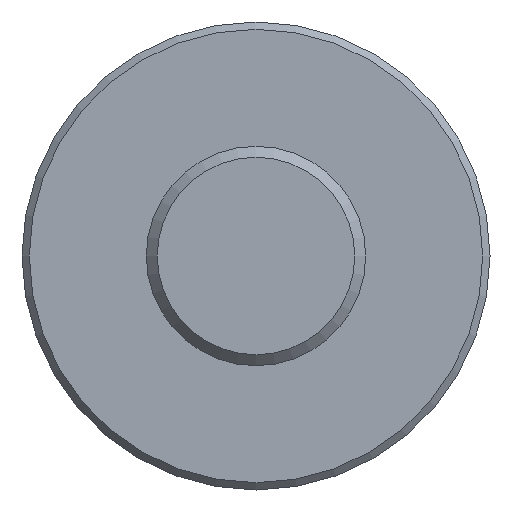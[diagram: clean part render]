
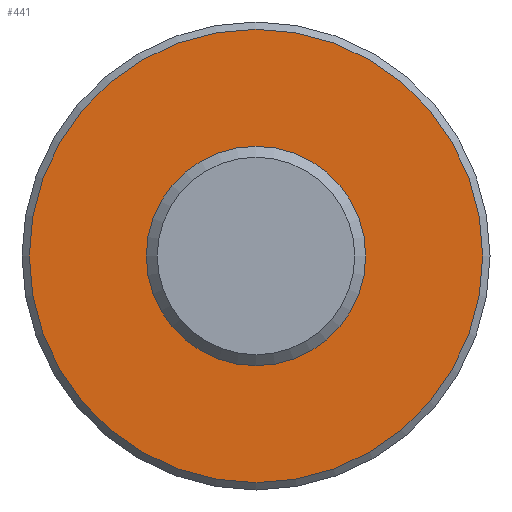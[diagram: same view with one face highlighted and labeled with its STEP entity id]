
A CAD part, front view. The second image highlights one B-rep face of the part: STEP entity #441.
In plain terms, the highlighted planar face has unit normal (0, -1, 0).
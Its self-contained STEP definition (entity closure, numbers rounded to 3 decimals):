
#33 = EDGE_LOOP ( 'NONE', ( #133 ) ) ;
#41 = AXIS2_PLACEMENT_3D ( 'NONE', #124, #175, #85 ) ;
#43 = FACE_OUTER_BOUND ( 'NONE', #315, .T. ) ;
#85 = DIRECTION ( 'NONE',  ( 0., 0., 1. ) ) ;
#95 = CARTESIAN_POINT ( 'NONE',  ( 0., 13., -1.5 ) ) ;
#124 = CARTESIAN_POINT ( 'NONE',  ( -3.2, 13., 0. ) ) ;
#131 = DIRECTION ( 'NONE',  ( 0., 0., 1. ) ) ;
#133 = ORIENTED_EDGE ( 'NONE', *, *, #258, .F. ) ;
#158 = DIRECTION ( 'NONE',  ( 0., -1., 0. ) ) ;
#175 = DIRECTION ( 'NONE',  ( 0., 1., 0. ) ) ;
#184 = CARTESIAN_POINT ( 'NONE',  ( 0., 13., 0. ) ) ;
#238 = AXIS2_PLACEMENT_3D ( 'NONE', #383, #158, #378 ) ;
#258 = EDGE_CURVE ( 'NONE', #576, #576, #300, .T. ) ;
#262 = AXIS2_PLACEMENT_3D ( 'NONE', #184, #410, #131 ) ;
#300 = CIRCLE ( 'NONE', #238, 1.5 ) ;
#315 = EDGE_LOOP ( 'NONE', ( #397 ) ) ;
#357 = CARTESIAN_POINT ( 'NONE',  ( 0., 13., 3.1 ) ) ;
#378 = DIRECTION ( 'NONE',  ( 0., 0., -1. ) ) ;
#383 = CARTESIAN_POINT ( 'NONE',  ( 0., 13., 0. ) ) ;
#386 = FACE_BOUND ( 'NONE', #33, .T. ) ;
#397 = ORIENTED_EDGE ( 'NONE', *, *, #544, .T. ) ;
#410 = DIRECTION ( 'NONE',  ( 0., -1., 0. ) ) ;
#426 = VERTEX_POINT ( 'NONE', #357 ) ;
#441 = ADVANCED_FACE ( 'NONE', ( #43, #386 ), #446, .F. ) ;
#446 = PLANE ( 'NONE',  #41 ) ;
#544 = EDGE_CURVE ( 'NONE', #426, #426, #553, .T. ) ;
#553 = CIRCLE ( 'NONE', #262, 3.1 ) ;
#576 = VERTEX_POINT ( 'NONE', #95 ) ;
